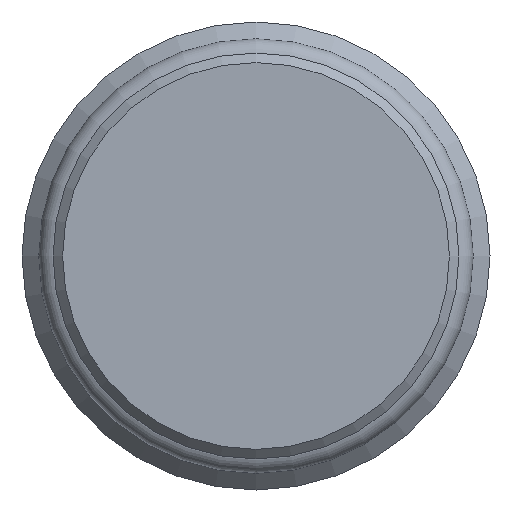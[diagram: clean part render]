
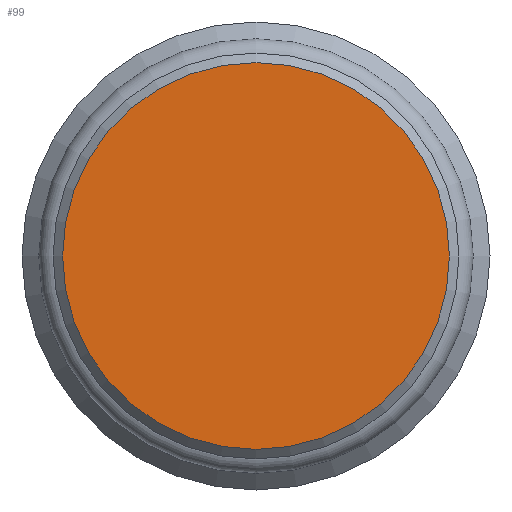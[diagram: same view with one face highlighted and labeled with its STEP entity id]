
A CAD part, left-side view. The second image highlights one B-rep face of the part: STEP entity #99.
In plain terms, the highlighted planar face has unit normal (-1, 0, 0).
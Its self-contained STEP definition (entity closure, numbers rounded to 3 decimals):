
#99 = ADVANCED_FACE( '', ( #212 ), #213, .F. );
#212 = FACE_OUTER_BOUND( '', #331, .T. );
#213 = PLANE( '', #332 );
#331 = EDGE_LOOP( '', ( #530 ) );
#332 = AXIS2_PLACEMENT_3D( '', #531, #532, #533 );
#530 = ORIENTED_EDGE( '', *, *, #610, .F. );
#531 = CARTESIAN_POINT( '', ( 0., 0., 0. ) );
#532 = DIRECTION( '', ( 1., 0., 0. ) );
#533 = DIRECTION( '', ( 0., 0., -1. ) );
#610 = EDGE_CURVE( '', #706, #706, #707, .T. );
#706 = VERTEX_POINT( '', #837 );
#707 = CIRCLE( '', #838, 4.05 );
#837 = CARTESIAN_POINT( '', ( 0., 0., -4.05 ) );
#838 = AXIS2_PLACEMENT_3D( '', #979, #980, #981 );
#979 = CARTESIAN_POINT( '', ( 0., 0., 0. ) );
#980 = DIRECTION( '', ( 1., 0., 0. ) );
#981 = DIRECTION( '', ( 0., 0., -1. ) );
